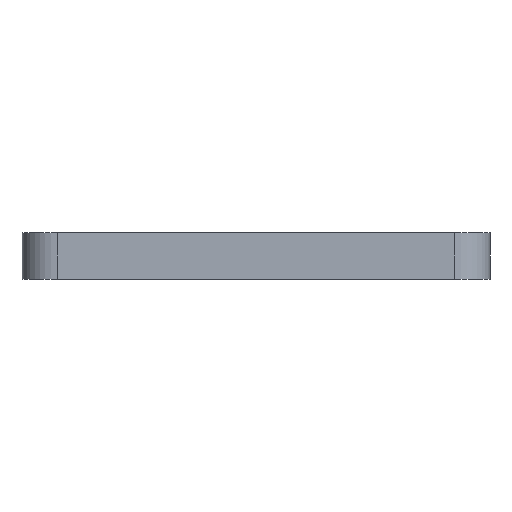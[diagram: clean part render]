
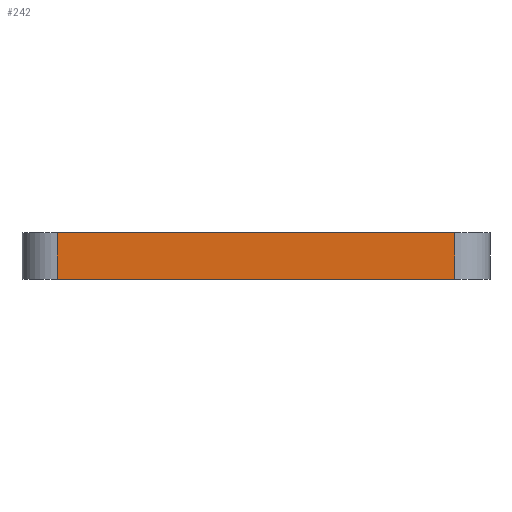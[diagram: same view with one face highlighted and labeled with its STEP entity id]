
A CAD part, left-side view. The second image highlights one B-rep face of the part: STEP entity #242.
In plain terms, the highlighted planar face has unit normal (-1, 0, 0).
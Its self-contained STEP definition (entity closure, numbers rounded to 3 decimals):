
#184 = CARTESIAN_POINT ( 'NONE',  ( -973.457, 1863.115, 4. ) ) ;
#190 = VERTEX_POINT ( 'NONE', #526 ) ;
#199 = EDGE_CURVE ( 'NONE', #190, #204, #522, .T. ) ;
#204 = VERTEX_POINT ( 'NONE', #541 ) ;
#235 = ORIENTED_EDGE ( 'NONE', *, *, #330, .F. ) ;
#242 = ADVANCED_FACE ( 'NONE', ( #400 ), #405, .F. ) ;
#243 = ORIENTED_EDGE ( 'NONE', *, *, #362, .T. ) ;
#264 = DIRECTION ( 'NONE',  ( 0., 0., -1. ) ) ;
#265 = EDGE_CURVE ( 'NONE', #333, #204, #601, .T. ) ;
#268 = EDGE_LOOP ( 'NONE', ( #356, #358, #235, #243 ) ) ;
#294 = VECTOR ( 'NONE', #264, 1000. ) ;
#330 = EDGE_CURVE ( 'NONE', #336, #333, #700, .T. ) ;
#333 = VERTEX_POINT ( 'NONE', #712 ) ;
#336 = VERTEX_POINT ( 'NONE', #674 ) ;
#356 = ORIENTED_EDGE ( 'NONE', *, *, #199, .T. ) ;
#358 = ORIENTED_EDGE ( 'NONE', *, *, #265, .F. ) ;
#362 = EDGE_CURVE ( 'NONE', #336, #190, #654, .T. ) ;
#378 = AXIS2_PLACEMENT_3D ( 'NONE', #426, #425, #424 ) ;
#400 = FACE_OUTER_BOUND ( 'NONE', #268, .T. ) ;
#405 = PLANE ( 'NONE',  #378 ) ;
#424 = DIRECTION ( 'NONE',  ( 0., 0., -1. ) ) ;
#425 = DIRECTION ( 'NONE',  ( 1., 0., 0. ) ) ;
#426 = CARTESIAN_POINT ( 'NONE',  ( -973.457, 1863.115, 4. ) ) ;
#479 = DIRECTION ( 'NONE',  ( 0., -1., 0. ) ) ;
#480 = CARTESIAN_POINT ( 'NONE',  ( -973.457, 1863.115, 0. ) ) ;
#522 = LINE ( 'NONE', #480, #574 ) ;
#526 = CARTESIAN_POINT ( 'NONE',  ( -973.457, 1863.115, 0. ) ) ;
#541 = CARTESIAN_POINT ( 'NONE',  ( -973.457, 1829.115, 0. ) ) ;
#574 = VECTOR ( 'NONE', #479, 1000. ) ;
#601 = LINE ( 'NONE', #609, #632 ) ;
#608 = DIRECTION ( 'NONE',  ( 0., 0., -1. ) ) ;
#609 = CARTESIAN_POINT ( 'NONE',  ( -973.457, 1829.115, 4. ) ) ;
#632 = VECTOR ( 'NONE', #608, 1000. ) ;
#654 = LINE ( 'NONE', #184, #294 ) ;
#672 = CARTESIAN_POINT ( 'NONE',  ( -973.457, 1863.115, 4. ) ) ;
#674 = CARTESIAN_POINT ( 'NONE',  ( -973.457, 1863.115, 4. ) ) ;
#675 = DIRECTION ( 'NONE',  ( 0., -1., 0. ) ) ;
#700 = LINE ( 'NONE', #672, #727 ) ;
#712 = CARTESIAN_POINT ( 'NONE',  ( -973.457, 1829.115, 4. ) ) ;
#727 = VECTOR ( 'NONE', #675, 1000. ) ;
